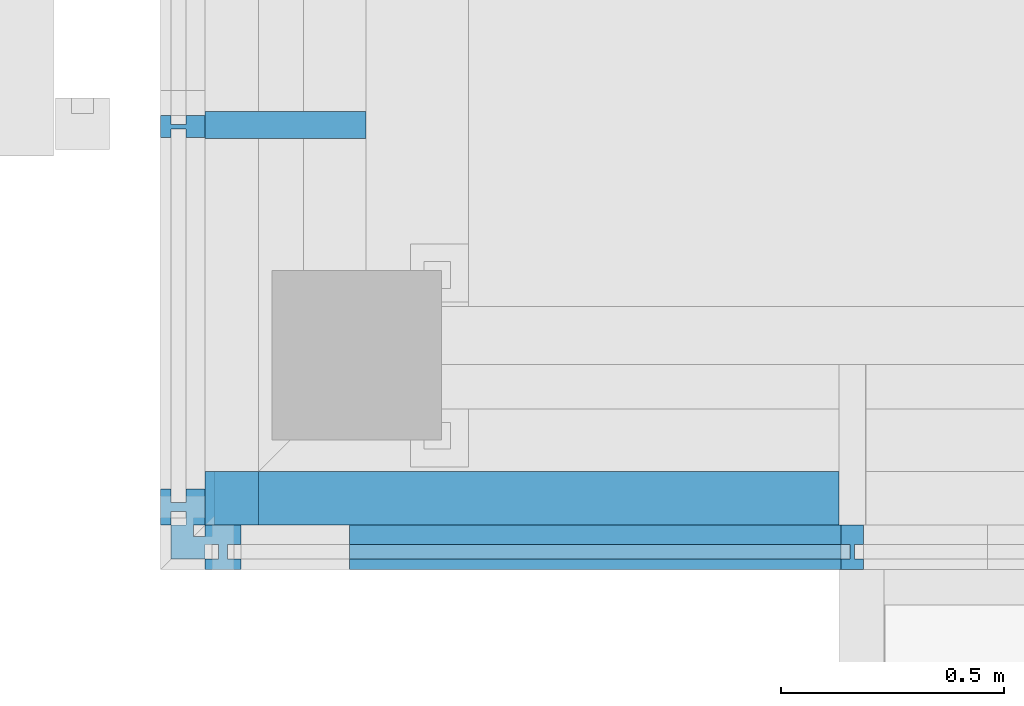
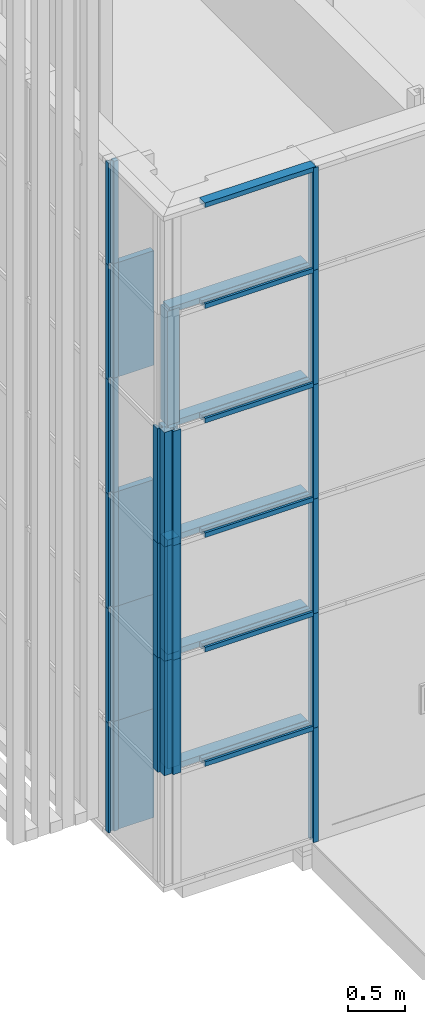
# One storey, part 7 of 260: 33 members, 2 elements without a shape of their own.
"""IFC2X3 building model written with IfcOpenShell, lengths in millimetres."""

from ifc_helpers import new_model, entity, si_unit, converted_unit, derived_unit, money_unit, direction, frame, origin_with_axes, place, context, subcontext, project, spatial, faceted_brep, source, transform, mapped, material, type_object, element, aggregate, save


model = new_model("IFC2X3")

# Units and contexts
model_context = context("Model", 3, precision=0.01, world=origin_with_axes(), true_north=direction((0.0, 1.0)))
body_context = subcontext(model_context, "Body", "Model", "MODEL_VIEW")
ifc_project = project(units=[si_unit("LENGTHUNIT", "METRE", prefix="MILLI"), si_unit("AREAUNIT", "SQUARE_METRE"), si_unit("VOLUMEUNIT", "CUBIC_METRE"), converted_unit("PLANEANGLEUNIT", "DEGREE", entity("IfcPlaneAngleMeasure", 0.0174532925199), si_unit("PLANEANGLEUNIT", "RADIAN"), dimensions=[0, 0, 0, 0, 0, 0, 0]), money_unit("EUR"), converted_unit("TIMEUNIT", "Year", entity("IfcTimeMeasure", 31556926.0), si_unit("TIMEUNIT", "SECOND"), dimensions=[0, 0, 1, 0, 0, 0, 0]), si_unit("MASSUNIT", "GRAM", prefix="KILO"), si_unit("THERMODYNAMICTEMPERATUREUNIT", "DEGREE_CELSIUS"), si_unit("LUMINOUSINTENSITYUNIT", "LUMEN"), si_unit("ENERGYUNIT", "JOULE", prefix="MEGA"), derived_unit("THERMALCONDUCTANCEUNIT", [(si_unit("POWERUNIT", "WATT"), 1), (si_unit("LENGTHUNIT", "METRE"), -1), (si_unit("THERMODYNAMICTEMPERATUREUNIT", "KELVIN"), -1)]), derived_unit("SPECIFICHEATCAPACITYUNIT", [(si_unit("ENERGYUNIT", "JOULE"), 1), (si_unit("MASSUNIT", "GRAM", prefix="KILO"), -1), (si_unit("THERMODYNAMICTEMPERATUREUNIT", "KELVIN"), -1)]), derived_unit("MASSDENSITYUNIT", [(si_unit("MASSUNIT", "GRAM", prefix="KILO"), 1), (si_unit("VOLUMEUNIT", "CUBIC_METRE"), -1)])], contexts=[model_context])

# Site, building, storey
site_placement = place(None, origin_with_axes())
site = spatial("IfcSite", under=ifc_project, at=site_placement, Name="Kolde pst 67a", CompositionType="ELEMENT")
building_placement = place(site_placement, origin_with_axes())
building = spatial("IfcBuilding", under=site, at=building_placement, Name="Riigigümnaasium", CompositionType="ELEMENT")
storey_placement = place(building_placement, origin_with_axes())
storey = spatial("IfcBuildingStorey", under=building, at=storey_placement, Name="1. korrus", CompositionType="ELEMENT", Elevation=0.0)

# Curtain wall, members
curtain_wall_type = type_object("IfcCurtainWallType", Name="Curtain Wall Type", PredefinedType="NOTDEFINED")
curtain_wall_1_placement = place(storey_placement, frame((47829.9854655, 8727.77020058, -0.000749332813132), z_axis=(0.0, 0.0, 1.0), x_axis=(1.0, 0.0, 0.0)))
curtain_wall_1 = element("IfcCurtainWall", 1, at=curtain_wall_1_placement, inside=storey, type_object=curtain_wall_type, Name="KLAASFASSAAD")
ifc_material_1 = material(Name="_METALL - alumiinium")
member_type_1 = type_object("IfcMemberType", Name="Transom Frame 50 x 100", PredefinedType="MEMBER")
shared_shape_1 = source(origin_with_axes(), body_context, "Body", "Brep", [
    faceted_brep([(5.0, -16.5, 1127.09166949), (5.0, 16.5, 1127.09166949), (25.0, 16.5, 1127.09166949), (25.0, 40.0, 1127.09166949), (-25.0, 40.0, 1127.09166949), (-25.0, 16.5, 1127.09166949), (-5.0, 16.5, 1127.09166949), (-5.0, -16.5, 1127.09166949), (-25.0, -16.5, 1127.09166949), (-25.0, -60.0, 1127.09166949), (25.0, -60.0, 1127.09166949), (25.0, -16.5, 1127.09166949), (5.0, -16.5, 25.0), (5.0, 16.5, 25.0), (25.0, 16.5, 25.0), (25.0, 40.0, 25.0), (-25.0, 40.0, 25.0), (-25.0, 16.5, 25.0), (-5.0, 16.5, 25.0), (-5.0, -16.5, 25.0), (-25.0, -16.5, 25.0), (-25.0, -60.0, 25.0), (25.0, -60.0, 25.0), (25.0, -16.5, 25.0)], [[[0, 1, 2, 3, 4, 5, 6, 7, 8, 9, 10, 11]], [[0, 12, 13, 1]], [[1, 13, 14, 2]], [[14, 15, 3, 2]], [[4, 3, 15, 16]], [[17, 5, 4, 16]], [[5, 17, 18, 6]], [[7, 6, 18, 19]], [[8, 7, 19, 20]], [[8, 20, 21, 9]], [[10, 9, 21, 22]], [[11, 10, 22, 23]], [[11, 23, 12, 0]], [[13, 12, 23, 22, 21, 20, 19, 18, 17, 16, 15, 14]]]),
])
member_1_placement = place(curtain_wall_1_placement, frame((1510.65725232, -1457.77050928, 3690.00074933), z_axis=(-1.0, 2.70881141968e-07, 0.0), x_axis=(0.0, 0.0, 1.0)))
member_1 = element("IfcMember", 2, at=member_1_placement, type_object=member_type_1, material=ifc_material_1, Name="RF RAAM HOR-705", ObjectType="MEMBER", context=body_context, shape_type="MappedRepresentation", body=[
    mapped(shared_shape_1, transform((0.0, 0.0, 0.0), x_axis=(-1.0, 0.0, 0.0), y_axis=(0.0, -1.0, 0.0), z_axis=(0.0, 0.0, 1.0))),
])
member_2_placement = place(curtain_wall_1_placement, frame((1510.65725232, -1457.77050928, 2460.00074933), z_axis=(-1.0, 2.70881141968e-07, 0.0), x_axis=(0.0, 0.0, 1.0)))
member_2 = element("IfcMember", 3, at=member_2_placement, type_object=member_type_1, material=ifc_material_1, Name="RF RAAM HOR-669", ObjectType="MEMBER", context=body_context, shape_type="MappedRepresentation", body=[
    mapped(shared_shape_1, transform((0.0, 0.0, 0.0), x_axis=(-1.0, 0.0, 0.0), y_axis=(0.0, -1.0, 0.0), z_axis=(0.0, 0.0, 1.0))),
])
member_3_placement = place(curtain_wall_1_placement, frame((1510.65725232, -1457.77050928, 4920.00074933), z_axis=(-1.0, 2.70881141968e-07, 0.0), x_axis=(0.0, 0.0, 1.0)))
member_3 = element("IfcMember", 4, at=member_3_placement, type_object=member_type_1, material=ifc_material_1, Name="RF RAAM HOR-685", ObjectType="MEMBER", context=body_context, shape_type="MappedRepresentation", body=[
    mapped(shared_shape_1, transform((0.0, 0.0, 0.0), x_axis=(-1.0, 0.0, 0.0), y_axis=(0.0, -1.0, 0.0), z_axis=(0.0, 0.0, 1.0))),
])
member_4_placement = place(curtain_wall_1_placement, frame((1510.65725232, -1457.77050928, 6150.00074933), z_axis=(-1.0, 2.70881141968e-07, 0.0), x_axis=(0.0, 0.0, 1.0)))
member_4 = element("IfcMember", 5, at=member_4_placement, type_object=member_type_1, material=ifc_material_1, Name="RF RAAM HOR-691", ObjectType="MEMBER", context=body_context, shape_type="MappedRepresentation", body=[
    mapped(shared_shape_1, transform((0.0, 0.0, 0.0), x_axis=(-1.0, 0.0, 0.0), y_axis=(0.0, -1.0, 0.0), z_axis=(0.0, 0.0, 1.0))),
])
member_5_placement = place(curtain_wall_1_placement, frame((1510.65724213, -1457.77050928, 1230.00074933), z_axis=(-1.0, 2.70881141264e-07, 0.0), x_axis=(0.0, 0.0, 1.0)))
member_5 = element("IfcMember", 6, at=member_5_placement, type_object=member_type_1, material=ifc_material_1, Name="RF RAAM HOR-956", ObjectType="MEMBER", context=body_context, shape_type="MappedRepresentation", body=[
    mapped(shared_shape_1, transform((0.0, 0.0, 0.0), x_axis=(-1.0, 0.0, 0.0), y_axis=(0.0, -1.0, 0.0), z_axis=(0.0, 0.0, 1.0))),
])
member_type_2 = type_object("IfcMemberType", Name="Corner Frame 80 x 100", PredefinedType="MEMBER")
shared_shape_2 = source(origin_with_axes(), body_context, "Body", "Brep", [
    faceted_brep([(66.1144961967, -89.4489988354, 0.0), (89.4490168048, -66.1144718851, 0.0), (89.4490168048, -66.1144718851, 1230.0), (66.1144961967, -89.4489988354, 1230.0), (51.9723586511, -75.3068651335, 0.0), (75.3068792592, -51.9723381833, 0.0), (75.3068792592, -51.9723381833, 1230.0), (51.9723586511, -75.3068651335, 1230.0)], [[[0, 1, 2, 3]], [[0, 4, 5, 1]], [[1, 5, 6, 2]], [[3, 2, 6, 7]], [[4, 0, 3, 7]], [[5, 4, 7, 6]]]),
    faceted_brep([(56.5685617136, -141.42134855, 0.0), (87.3277025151, -110.662199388, 0.0), (87.3277025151, -110.662199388, 1230.0), (56.5685617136, -141.42134855, 1230.0), (1.15311900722e-05, -84.8528137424, 0.0), (30.7591523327, -54.0936645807, 0.0), (30.7591523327, -54.0936645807, 1230.0), (1.15311900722e-05, -84.8528137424, 1230.0)], [[[0, 1, 2, 3]], [[0, 4, 5, 1]], [[1, 5, 6, 2]], [[3, 2, 6, 7]], [[4, 0, 3, 7]], [[5, 4, 7, 6]]]),
    faceted_brep([(70.7106800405, -14.1421260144, 0.0), (54.0936729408, -30.7591376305, 0.0), (54.0936729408, -30.7591376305, 1230.0), (70.7106800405, -14.1421260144, 1230.0), (127.279230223, -70.7106608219, 0.0), (110.662223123, -87.3276724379, 0.0), (110.662223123, -87.3276724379, 1230.0), (127.279230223, -70.7106608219, 1230.0)], [[[0, 1, 2, 3]], [[0, 4, 5, 1]], [[1, 5, 6, 2]], [[3, 2, 6, 7]], [[4, 0, 3, 7]], [[5, 4, 7, 6]]]),
    faceted_brep([(-54.0936729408, -30.7591376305, 0.0), (-49.8510328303, -35.0017788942, 0.0), (-49.8510328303, -35.0017788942, 1230.0), (-54.0936729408, -30.7591376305, 1230.0), (0.0, 23.3345206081, 0.0), (54.0936729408, -30.7591376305, 0.0), (49.8510328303, -35.0017788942, 0.0), (0.0, 14.849240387, 0.0), (0.0, 14.849240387, 1230.0), (49.8510328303, -35.0017788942, 1230.0), (54.0936729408, -30.7591376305, 1230.0), (0.0, 23.3345206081, 1230.0)], [[[0, 1, 2, 3]], [[0, 4, 5, 6, 7, 1]], [[1, 7, 8, 2]], [[3, 2, 8, 9, 10, 11]], [[4, 0, 3, 11]], [[5, 4, 11, 10]], [[6, 5, 10, 9]], [[7, 6, 9, 8]]]),
    faceted_brep([(-18.738337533, -57.6292001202, 0.0), (-45.6083915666, -30.7591387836, 0.0), (-45.6083915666, -30.7591387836, 1230.0), (-18.738337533, -57.6292001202, 1230.0), (0.0, -38.8908676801, 0.0), (18.738337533, -57.6292001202, 0.0), (45.6083915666, -30.7591387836, 0.0), (49.8510328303, -35.0017788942, 0.0), (18.7383386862, -66.1144814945, 0.0), (0.0, -47.3761479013, 0.0), (-18.7383386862, -66.1144814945, 0.0), (-49.8510328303, -35.0017788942, 0.0), (-49.8510328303, -35.0017788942, 1230.0), (-18.7383386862, -66.1144814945, 1230.0), (0.0, -47.3761479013, 1230.0), (18.7383386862, -66.1144814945, 1230.0), (49.8510328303, -35.0017788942, 1230.0), (45.6083915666, -30.7591387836, 1230.0), (18.738337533, -57.6292001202, 1230.0), (0.0, -38.8908676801, 1230.0)], [[[0, 1, 2, 3]], [[0, 4, 5, 6, 7, 8, 9, 10, 11, 1]], [[1, 11, 12, 2]], [[3, 2, 12, 13, 14, 15, 16, 17, 18, 19]], [[4, 0, 3, 19]], [[5, 4, 19, 18]], [[6, 5, 18, 17]], [[7, 6, 17, 16]], [[8, 7, 16, 15]], [[9, 8, 15, 14]], [[10, 9, 14, 13]], [[11, 10, 13, 12]]]),
    faceted_brep([(-45.6083915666, -30.7591387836, 0.0), (-18.738337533, -57.6292001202, 0.0), (-18.738337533, -57.6292001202, 1230.0), (-45.6083915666, -30.7591387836, 1230.0), (0.0, 14.849240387, 0.0), (45.6083915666, -30.7591387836, 0.0), (18.738337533, -57.6292001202, 0.0), (0.0, -38.8908676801, 0.0), (0.0, -38.8908676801, 1230.0), (18.738337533, -57.6292001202, 1230.0), (45.6083915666, -30.7591387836, 1230.0), (0.0, 14.849240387, 1230.0)], [[[0, 1, 2, 3]], [[0, 4, 5, 6, 7, 1]], [[1, 7, 8, 2]], [[3, 2, 8, 9, 10, 11]], [[4, 0, 3, 11]], [[5, 4, 11, 10]], [[6, 5, 10, 9]], [[7, 6, 9, 8]]]),
    faceted_brep([(-51.9723586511, -75.3068651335, 0.0), (-75.3068792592, -51.9723381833, 0.0), (-75.3068792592, -51.9723381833, 1230.0), (-51.9723586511, -75.3068651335, 1230.0), (-66.1144961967, -89.4489988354, 0.0), (-89.4490168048, -66.1144718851, 0.0), (-89.4490168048, -66.1144718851, 1230.0), (-66.1144961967, -89.4489988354, 1230.0)], [[[0, 1, 2, 3]], [[0, 4, 5, 1]], [[1, 5, 6, 2]], [[3, 2, 6, 7]], [[4, 0, 3, 7]], [[5, 4, 7, 6]]]),
    faceted_brep([(-1.15311900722e-05, -84.8528137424, 0.0), (-30.7591523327, -54.0936645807, 0.0), (-30.7591523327, -54.0936645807, 1230.0), (-1.15311900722e-05, -84.8528137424, 1230.0), (-56.5685617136, -141.42134855, 0.0), (-87.3277025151, -110.662199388, 0.0), (-87.3277025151, -110.662199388, 1230.0), (-56.5685617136, -141.42134855, 1230.0)], [[[0, 1, 2, 3]], [[0, 4, 5, 1]], [[1, 5, 6, 2]], [[3, 2, 6, 7]], [[4, 0, 3, 7]], [[5, 4, 7, 6]]]),
    faceted_brep([(-127.279230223, -70.7106608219, 0.0), (-110.662223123, -87.3276724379, 0.0), (-110.662223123, -87.3276724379, 1230.0), (-127.279230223, -70.7106608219, 1230.0), (-70.7106800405, -14.1421260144, 0.0), (-54.0936729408, -30.7591376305, 0.0), (-54.0936729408, -30.7591376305, 1230.0), (-70.7106800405, -14.1421260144, 1230.0)], [[[0, 1, 2, 3]], [[0, 4, 5, 1]], [[1, 5, 6, 2]], [[3, 2, 6, 7]], [[4, 0, 3, 7]], [[5, 4, 7, 6]]]),
])
member_6_placement = place(curtain_wall_1_placement, frame((1.32891386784e-06, -1457.77010008, 1230.00074933), z_axis=(0.0, 0.0, 1.0), x_axis=(0.707106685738, -0.707106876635, 0.0)))
member_6 = element("IfcMember", 7, at=member_6_placement, type_object=member_type_2, material=ifc_material_1, Name="RF RAAM NURK-948", ObjectType="MEMBER", context=body_context, shape_type="MappedRepresentation", body=[
    mapped(shared_shape_2, transform((0.0, 0.0, 0.0), x_axis=(-1.0, 0.0, 0.0), y_axis=(0.0, -1.0, 0.0), z_axis=(0.0, 0.0, 1.0))),
])
member_7_placement = place(curtain_wall_1_placement, frame((1.32891386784e-06, -1457.77010008, 2460.00074933), z_axis=(0.0, 0.0, 1.0), x_axis=(0.707106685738, -0.707106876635, 0.0)))
member_7 = element("IfcMember", 8, at=member_7_placement, type_object=member_type_2, material=ifc_material_1, Name="RF RAAM NURK-949", ObjectType="MEMBER", context=body_context, shape_type="MappedRepresentation", body=[
    mapped(shared_shape_2, transform((0.0, 0.0, 0.0), x_axis=(-1.0, 0.0, 0.0), y_axis=(0.0, -1.0, 0.0), z_axis=(0.0, 0.0, 1.0))),
])
member_8_placement = place(curtain_wall_1_placement, frame((1.32891386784e-06, -1457.77010008, 3690.00074933), z_axis=(0.0, 0.0, 1.0), x_axis=(0.707106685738, -0.707106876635, 0.0)))
member_8 = element("IfcMember", 9, at=member_8_placement, type_object=member_type_2, material=ifc_material_1, Name="RF RAAM NURK-950", ObjectType="MEMBER", context=body_context, shape_type="MappedRepresentation", body=[
    mapped(shared_shape_2, transform((0.0, 0.0, 0.0), x_axis=(-1.0, 0.0, 0.0), y_axis=(0.0, -1.0, 0.0), z_axis=(0.0, 0.0, 1.0))),
])
member_type_3 = type_object("IfcMemberType", Name="Mullion Frame 50 x 100", PredefinedType="MEMBER")
shared_shape_3 = source(origin_with_axes(), body_context, "Body", "Brep", [
    faceted_brep([(5.0, -16.5, 1230.00046362), (5.0, 16.5, 1230.00046362), (25.0, 16.5, 1230.00046362), (25.0, 40.0, 1230.00046362), (-25.0, 40.0, 1230.00046362), (-25.0, 16.5, 1230.00046362), (-5.0, 16.5, 1230.00046362), (-5.0, -16.5, 1230.00046362), (-25.0, -16.5, 1230.00046362), (-25.0, -60.0, 1230.00046362), (25.0, -60.0, 1230.00046362), (25.0, -16.5, 1230.00046362), (5.0, -16.5, 50.0), (5.0, 16.5, 50.0), (25.0, 16.5, 50.0), (25.0, 40.0, 50.0), (-25.0, 40.0, 50.0), (-25.0, 16.5, 50.0), (-5.0, 16.5, 50.0), (-5.0, -16.5, 50.0), (-25.0, -16.5, 50.0), (-25.0, -60.0, 50.0), (25.0, -60.0, 50.0), (25.0, -16.5, 50.0)], [[[0, 1, 2, 3, 4, 5, 6, 7, 8, 9, 10, 11]], [[0, 12, 13, 1]], [[1, 13, 14, 2]], [[14, 15, 3, 2]], [[4, 3, 15, 16]], [[17, 5, 4, 16]], [[5, 17, 18, 6]], [[7, 6, 18, 19]], [[8, 7, 19, 20]], [[8, 20, 21, 9]], [[10, 9, 21, 22]], [[11, 10, 22, 23]], [[11, 23, 12, 0]], [[13, 12, 23, 22, 21, 20, 19, 18, 17, 16, 15, 14]]]),
])
member_9_placement = place(curtain_wall_1_placement, frame((4.6019721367e-07, -504.830154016, 0.0), z_axis=(0.0, 4.44517864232e-10, 1.0), x_axis=(9.11614519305e-10, -1.0, 4.44517864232e-10)))
member_9 = element("IfcMember", 10, at=member_9_placement, type_object=member_type_3, material=ifc_material_1, Name="RF RAAM VERT-994", ObjectType="MEMBER", context=body_context, shape_type="MappedRepresentation", body=[
    mapped(shared_shape_3, transform((0.0, 0.0, 0.0), x_axis=(-1.0, 0.0, 4.44517864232e-10), y_axis=(0.0, -1.0, 0.0), z_axis=(4.44517864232e-10, 0.0, 1.0))),
])
shared_shape_4 = source(origin_with_axes(), body_context, "Body", "Brep", [
    faceted_brep([(5.0, -16.5, 1230.0), (5.0, 16.5, 1230.0), (25.0, 16.5, 1230.0), (25.0, 40.0, 1230.0), (-25.0, 40.0, 1230.0), (-25.0, 16.5, 1230.0), (-5.0, 16.5, 1230.0), (-5.0, -16.5, 1230.0), (-25.0, -16.5, 1230.0), (-25.0, -60.0, 1230.0), (25.0, -60.0, 1230.0), (25.0, -16.5, 1230.0), (5.0, -16.5, 0.0), (5.0, 16.5, 0.0), (25.0, 16.5, 0.0), (25.0, 40.0, 0.0), (-25.0, 40.0, 0.0), (-25.0, 16.5, 0.0), (-5.0, 16.5, 0.0), (-5.0, -16.5, 0.0), (-25.0, -16.5, 0.0), (-25.0, -60.0, 0.0), (25.0, -60.0, 0.0), (25.0, -16.5, 0.0)], [[[0, 1, 2, 3, 4, 5, 6, 7, 8, 9, 10, 11]], [[0, 12, 13, 1]], [[1, 13, 14, 2]], [[14, 15, 3, 2]], [[3, 15, 16, 4]], [[17, 5, 4, 16]], [[5, 17, 18, 6]], [[7, 6, 18, 19]], [[8, 7, 19, 20]], [[8, 20, 21, 9]], [[9, 21, 22, 10]], [[11, 10, 22, 23]], [[11, 23, 12, 0]], [[13, 12, 23, 22, 21, 20, 19, 18, 17, 16, 15, 14]]]),
])
member_10_placement = place(curtain_wall_1_placement, frame((4.6019721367e-07, -504.830155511, 4920.00074933), z_axis=(0.0, 0.0, 1.0), x_axis=(9.11614519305e-10, -1.0, 0.0)))
member_10 = element("IfcMember", 11, at=member_10_placement, type_object=member_type_3, material=ifc_material_1, Name="RF RAAM VERT-867", ObjectType="MEMBER", context=body_context, shape_type="MappedRepresentation", body=[
    mapped(shared_shape_4, transform((0.0, 0.0, 0.0), x_axis=(-1.0, 0.0, 0.0), y_axis=(0.0, -1.0, 0.0), z_axis=(0.0, 0.0, 1.0))),
])
member_11_placement = place(curtain_wall_1_placement, frame((1510.65725232, -1457.77050928, 4920.00074933), z_axis=(0.0, 0.0, 1.0), x_axis=(1.0, -2.70881141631e-07, 0.0)))
member_11 = element("IfcMember", 12, at=member_11_placement, type_object=member_type_3, material=ifc_material_1, Name="RF RAAM VERT-881", ObjectType="MEMBER", context=body_context, shape_type="MappedRepresentation", body=[
    mapped(shared_shape_4, transform((0.0, 0.0, 0.0), x_axis=(-1.0, -2.70881141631e-07, 0.0), y_axis=(2.70881141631e-07, -1.0, 0.0), z_axis=(0.0, 0.0, 1.0))),
])
member_12_placement = place(curtain_wall_1_placement, frame((4.6019721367e-07, -504.83015347, 1230.00074933), z_axis=(0.0, 0.0, 1.0), x_axis=(9.11614519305e-10, -1.0, 0.0)))
member_12 = element("IfcMember", 13, at=member_12_placement, type_object=member_type_3, material=ifc_material_1, Name="RF RAAM VERT-990", ObjectType="MEMBER", context=body_context, shape_type="MappedRepresentation", body=[
    mapped(shared_shape_4, transform((0.0, 0.0, 0.0), x_axis=(-1.0, 0.0, 0.0), y_axis=(0.0, -1.0, 0.0), z_axis=(0.0, 0.0, 1.0))),
])
member_13_placement = place(curtain_wall_1_placement, frame((4.6019721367e-07, -504.83015347, 2460.00074933), z_axis=(0.0, 0.0, 1.0), x_axis=(9.11614519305e-10, -1.0, 0.0)))
member_13 = element("IfcMember", 14, at=member_13_placement, type_object=member_type_3, material=ifc_material_1, Name="RF RAAM VERT-991", ObjectType="MEMBER", context=body_context, shape_type="MappedRepresentation", body=[
    mapped(shared_shape_4, transform((0.0, 0.0, 0.0), x_axis=(-1.0, 0.0, 0.0), y_axis=(0.0, -1.0, 0.0), z_axis=(0.0, 0.0, 1.0))),
])
member_14_placement = place(curtain_wall_1_placement, frame((4.6019721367e-07, -504.830153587, 3690.00074933), z_axis=(0.0, -1.56436092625e-09, 1.0), x_axis=(9.11614519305e-10, -1.0, -1.56436092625e-09)))
member_14 = element("IfcMember", 15, at=member_14_placement, type_object=member_type_3, material=ifc_material_1, Name="RF RAAM VERT-992", ObjectType="MEMBER", context=body_context, shape_type="MappedRepresentation", body=[
    mapped(shared_shape_4, transform((0.0, 0.0, 0.0), x_axis=(-1.0, 0.0, -1.56436092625e-09), y_axis=(0.0, -1.0, 0.0), z_axis=(-1.56436092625e-09, 0.0, 1.0))),
])
member_15_placement = place(curtain_wall_1_placement, frame((1510.65725232, -1457.77050928, 3690.00074933), z_axis=(0.0, 0.0, 1.0), x_axis=(1.0, -2.70881141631e-07, 0.0)))
member_15 = element("IfcMember", 16, at=member_15_placement, type_object=member_type_3, material=ifc_material_1, Name="RF RAAM VERT-005", ObjectType="MEMBER", context=body_context, shape_type="MappedRepresentation", body=[
    mapped(shared_shape_4, transform((0.0, 0.0, 0.0), x_axis=(-1.0, -2.70881141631e-07, 0.0), y_axis=(2.70881141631e-07, -1.0, 0.0), z_axis=(0.0, 0.0, 1.0))),
])
member_16_placement = place(curtain_wall_1_placement, frame((1510.65724213, -1457.77050928, 0.000719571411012), z_axis=(0.0, 0.0, 1.0), x_axis=(1.0, -2.70881141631e-07, 0.0)))
member_16 = element("IfcMember", 17, at=member_16_placement, type_object=member_type_3, material=ifc_material_1, Name="RF RAAM VERT-010", ObjectType="MEMBER", context=body_context, shape_type="MappedRepresentation", body=[
    mapped(shared_shape_4, transform((0.0, 0.0, 0.0), x_axis=(-1.0, -2.70881141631e-07, 0.0), y_axis=(2.70881141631e-07, -1.0, 0.0), z_axis=(0.0, 0.0, 1.0))),
])
member_17_placement = place(curtain_wall_1_placement, frame((1510.65725232, -1457.77050928, 2460.00074933), z_axis=(0.0, 0.0, 1.0), x_axis=(1.0, -2.70881141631e-07, 0.0)))
member_17 = element("IfcMember", 18, at=member_17_placement, type_object=member_type_3, material=ifc_material_1, Name="RF RAAM VERT-011", ObjectType="MEMBER", context=body_context, shape_type="MappedRepresentation", body=[
    mapped(shared_shape_4, transform((0.0, 0.0, 0.0), x_axis=(-1.0, -2.70881141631e-07, 0.0), y_axis=(2.70881141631e-07, -1.0, 0.0), z_axis=(0.0, 0.0, 1.0))),
])
member_18_placement = place(curtain_wall_1_placement, frame((1510.65724213, -1457.77050928, 1230.00074933), z_axis=(8.27970609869e-09, 0.0, 1.0), x_axis=(1.0, -2.70881141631e-07, -8.27970609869e-09)))
member_18 = element("IfcMember", 19, at=member_18_placement, type_object=member_type_3, material=ifc_material_1, Name="RF RAAM VERT-012", ObjectType="MEMBER", context=body_context, shape_type="MappedRepresentation", body=[
    mapped(shared_shape_4, transform((0.0, 0.0, 0.0), x_axis=(-1.0, -2.70881141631e-07, -8.27970609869e-09), y_axis=(2.70881141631e-07, -1.0, 0.0), z_axis=(-8.27970609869e-09, 0.0, 1.0))),
])
shared_shape_5 = source(origin_with_axes(), body_context, "Body", "Brep", [
    faceted_brep([(5.0, -16.5, 1099.99900713), (5.0, 16.5, 1099.99900713), (25.0, 16.5, 1099.99900713), (25.0, 40.0, 1099.99900713), (-25.0, 40.0, 1099.99900713), (-25.0, 16.5, 1099.99900713), (-5.0, 16.5, 1099.99900713), (-5.0, -16.5, 1099.99900713), (-25.0, -16.5, 1099.99900713), (-25.0, -60.0, 1099.99900713), (25.0, -60.0, 1099.99900713), (25.0, -16.5, 1099.99900713), (5.0, -16.5, -4.55870452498e-07), (5.0, 16.5, -4.55870452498e-07), (25.0, 16.5, -4.55870452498e-07), (25.0, 40.0, -4.55870452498e-07), (-25.0, 40.0, -4.55870452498e-07), (-25.0, 16.5, -4.55870452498e-07), (-5.0, 16.5, -4.55870452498e-07), (-5.0, -16.5, -4.55870452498e-07), (-25.0, -16.5, -4.55870452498e-07), (-25.0, -60.0, -4.55870452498e-07), (25.0, -60.0, -4.55870452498e-07), (25.0, -16.5, -4.55870452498e-07)], [[[0, 1, 2, 3, 4, 5, 6, 7, 8, 9, 10, 11]], [[0, 12, 13, 1]], [[1, 13, 14, 2]], [[14, 15, 3, 2]], [[3, 15, 16, 4]], [[17, 5, 4, 16]], [[5, 17, 18, 6]], [[7, 6, 18, 19]], [[8, 7, 19, 20]], [[8, 20, 21, 9]], [[9, 21, 22, 10]], [[11, 10, 22, 23]], [[11, 23, 12, 0]], [[13, 12, 23, 22, 21, 20, 19, 18, 17, 16, 15, 14]]]),
])
member_19_placement = place(curtain_wall_1_placement, frame((1510.65725232, -1457.77050928, 6150.00074933), z_axis=(2.53584468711e-09, 0.0, 1.0), x_axis=(1.0, -2.70881141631e-07, -2.53584468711e-09)))
member_19 = element("IfcMember", 20, at=member_19_placement, type_object=member_type_3, material=ifc_material_1, Name="RF RAAM VERT-028", ObjectType="MEMBER", context=body_context, shape_type="MappedRepresentation", body=[
    mapped(shared_shape_5, transform((0.0, 0.0, 0.0), x_axis=(-1.0, -2.70881141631e-07, -2.53584468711e-09), y_axis=(2.70881141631e-07, -1.0, 0.0), z_axis=(-2.53584468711e-09, 0.0, 1.0))),
])
member_20_placement = place(curtain_wall_1_placement, frame((4.6019721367e-07, -504.830155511, 6150.00074933), z_axis=(0.0, 3.27695139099e-09, 1.0), x_axis=(9.11614519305e-10, -1.0, 3.27695139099e-09)))
member_20 = element("IfcMember", 21, at=member_20_placement, type_object=member_type_3, material=ifc_material_1, Name="RF RAAM VERT-043", ObjectType="MEMBER", context=body_context, shape_type="MappedRepresentation", body=[
    mapped(shared_shape_5, transform((0.0, 0.0, 0.0), x_axis=(-1.0, 0.0, 3.27695139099e-09), y_axis=(0.0, -1.0, 0.0), z_axis=(3.27695139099e-09, 0.0, 1.0))),
])
member_type_4 = type_object("IfcMemberType", Name="Boundary Frame 50 x 100", PredefinedType="MEMBER")
shared_shape_6 = source(origin_with_axes(), body_context, "Body", "Brep", [
    faceted_brep([(-30.0, -16.5, 1127.09167065), (-50.0, -16.5, 1127.09167065), (-50.0, -60.0, 1127.09167065), (0.0, -60.0, 1127.09167065), (0.0, 40.0, 1127.09167065), (-50.0, 40.0, 1127.09167065), (-50.0, 16.5, 1127.09167065), (-30.0, 16.5, 1127.09167065), (-30.0, -16.5, 0.0), (-50.0, -16.5, 0.0), (-50.0, -60.0, 0.0), (0.0, -60.0, 0.0), (0.0, 40.0, 0.0), (-50.0, 40.0, 0.0), (-50.0, 16.5, 0.0), (-30.0, 16.5, 0.0)], [[[0, 1, 2, 3, 4, 5, 6, 7]], [[0, 8, 9, 1]], [[9, 10, 2, 1]], [[10, 11, 3, 2]], [[11, 12, 4, 3]], [[12, 13, 5, 4]], [[6, 5, 13, 14]], [[14, 15, 7, 6]], [[7, 15, 8, 0]], [[8, 15, 14, 13, 12, 11, 10, 9]]]),
])
member_21_placement = place(curtain_wall_1_placement, frame((383.565582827, -1457.77020398, 7260.00008951), z_axis=(1.0, -2.70881141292e-07, -7.69025695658e-08), x_axis=(-7.69025695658e-08, 0.0, -1.0)))
member_21 = element("IfcMember", 22, at=member_21_placement, type_object=member_type_4, material=ifc_material_1, Name="RF RAAM SERV-542", ObjectType="MEMBER", context=body_context, shape_type="MappedRepresentation", body=[
    mapped(shared_shape_6, transform((0.0, 0.0, 0.0), x_axis=(-1.0, 0.0, -7.69025695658e-08), y_axis=(0.0, -1.0, 0.0), z_axis=(-7.69025695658e-08, 0.0, 1.0))),
])
aggregate(curtain_wall_1, [member_1, member_2, member_6, member_7, member_3, member_4, member_8, member_5, member_10, member_11, member_12, member_13, member_14, member_9, member_15, member_16, member_17, member_18, member_19, member_20, member_21])

curtain_wall_2_placement = place(storey_placement, frame((47889.9854796, 7778.28071079, -0.000681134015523), z_axis=(0.0, 0.0, 1.0), x_axis=(1.0, 0.0, 0.0)))
curtain_wall_2 = element("IfcCurtainWall", 23, at=curtain_wall_2_placement, inside=storey, type_object=curtain_wall_type, Name="Klaasfassaadi puitkarkass")
ifc_material_2 = material(Name="_KANDETARIND - liimpuit vastavalt EK osale")
member_type_5 = type_object("IfcMemberType", Name="Mullion Frame 60 x 360", PredefinedType="MEMBER")
shared_shape_7 = source(origin_with_axes(), body_context, "Body", "Brep", [
    faceted_brep([(-30.0, 0.0, 60.0), (-30.0, -360.0, 60.0), (-30.0, -360.0, 1230.0002536), (-30.0, 0.0, 1230.0002536), (30.0, 0.0, 60.0), (30.0, -360.0, 60.0), (30.0, -360.0, 1230.0002536), (30.0, 0.0, 1230.0002536)], [[[0, 1, 2, 3]], [[1, 0, 4, 5]], [[1, 5, 6, 2]], [[2, 6, 7, 3]], [[4, 0, 3, 7]], [[5, 4, 7, 6]]]),
])
member_22_placement = place(curtain_wall_2_placement, frame((-4.81769291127e-07, 448.280635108, 0.0), z_axis=(0.0, 0.0, 1.0), x_axis=(1.07471542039e-09, -1.0, 0.0)))
member_22 = element("IfcMember", 24, at=member_22_placement, type_object=member_type_5, material=ifc_material_2, Name="RF RAAM VERT-457", ObjectType="MEMBER", context=body_context, shape_type="MappedRepresentation", body=[
    mapped(shared_shape_7, transform((0.0, 0.0, 0.0), x_axis=(-1.0, 0.0, 0.0), y_axis=(0.0, -1.0, 0.0), z_axis=(0.0, 0.0, 1.0))),
])
shared_shape_8 = source(origin_with_axes(), body_context, "Body", "Brep", [
    faceted_brep([(-30.0, -360.0, 0.0), (-30.0, -360.0, 1230.0), (-30.0, 0.0, 1230.0), (-30.0, 0.0, 0.0), (30.0, -360.0, 0.0), (30.0, -360.0, 1230.0), (30.0, 0.0, 1230.0), (30.0, 0.0, 0.0)], [[[0, 1, 2, 3]], [[4, 5, 1, 0]], [[1, 5, 6, 2]], [[3, 2, 6, 7]], [[0, 3, 7, 4]], [[7, 6, 5, 4]]]),
])
member_23_placement = place(curtain_wall_2_placement, frame((-4.81769291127e-07, 448.280635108, 1230.00068113), z_axis=(0.0, 0.0, 1.0), x_axis=(1.07471542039e-09, -1.0, 0.0)))
member_23 = element("IfcMember", 25, at=member_23_placement, type_object=member_type_5, material=ifc_material_2, Name="RF RAAM VERT-457", ObjectType="MEMBER", context=body_context, shape_type="MappedRepresentation", body=[
    mapped(shared_shape_8, transform((0.0, 0.0, 0.0), x_axis=(-1.0, 0.0, 0.0), y_axis=(0.0, -1.0, 0.0), z_axis=(0.0, 0.0, 1.0))),
])
member_24_placement = place(curtain_wall_2_placement, frame((-4.81769291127e-07, 448.280635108, 2460.00068113), z_axis=(0.0, 0.0, 1.0), x_axis=(1.07471542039e-09, -1.0, 0.0)))
member_24 = element("IfcMember", 26, at=member_24_placement, type_object=member_type_5, material=ifc_material_2, Name="RF RAAM VERT-457", ObjectType="MEMBER", context=body_context, shape_type="MappedRepresentation", body=[
    mapped(shared_shape_8, transform((0.0, 0.0, 0.0), x_axis=(-1.0, 0.0, 0.0), y_axis=(0.0, -1.0, 0.0), z_axis=(0.0, 0.0, 1.0))),
])
member_25_placement = place(curtain_wall_2_placement, frame((-4.81769291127e-07, 448.280635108, 4920.00068113), z_axis=(0.0, 0.0, 1.0), x_axis=(1.07471542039e-09, -1.0, 0.0)))
member_25 = element("IfcMember", 27, at=member_25_placement, type_object=member_type_5, material=ifc_material_2, Name="RF RAAM VERT-457", ObjectType="MEMBER", context=body_context, shape_type="MappedRepresentation", body=[
    mapped(shared_shape_8, transform((0.0, 0.0, 0.0), x_axis=(-1.0, 0.0, 0.0), y_axis=(0.0, -1.0, 0.0), z_axis=(0.0, 0.0, 1.0))),
])
member_type_6 = type_object("IfcMemberType", Name="Transom Frame 60 x 120", PredefinedType="MEMBER")
shared_shape_9 = source(origin_with_axes(), body_context, "Body", "Brep", [
    faceted_brep([(-30.0, 0.0, 30.0), (-30.0, -120.0, 30.0), (-30.0, -120.0, 1430.0000015), (-30.0, 0.0, 1430.0000015), (30.0, 0.0, 30.0), (30.0, -120.0, 30.0), (30.0, -120.0, 1430.0000015), (30.0, 0.0, 1430.0000015)], [[[0, 1, 2, 3]], [[1, 0, 4, 5]], [[1, 5, 6, 2]], [[2, 6, 7, 3]], [[4, 0, 3, 7]], [[5, 4, 7, 6]]]),
])
member_26_placement = place(curtain_wall_2_placement, frame((1450.65727801, -448.281015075, 6150.00068113), z_axis=(-1.0, 2.61927578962e-07, 0.0), x_axis=(0.0, 0.0, 1.0)))
member_26 = element("IfcMember", 28, at=member_26_placement, type_object=member_type_6, material=ifc_material_2, Name="RF RAAM HOR-249", ObjectType="MEMBER", context=body_context, shape_type="MappedRepresentation", body=[
    mapped(shared_shape_9, transform((0.0, 0.0, 0.0), x_axis=(-1.0, 0.0, 0.0), y_axis=(0.0, -1.0, 0.0), z_axis=(0.0, 0.0, 1.0))),
])
member_27_placement = place(curtain_wall_2_placement, frame((1450.65727801, -448.281015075, 4920.00068113), z_axis=(-1.0, 2.61927578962e-07, 0.0), x_axis=(0.0, 0.0, 1.0)))
member_27 = element("IfcMember", 29, at=member_27_placement, type_object=member_type_6, material=ifc_material_2, Name="RF RAAM HOR-249", ObjectType="MEMBER", context=body_context, shape_type="MappedRepresentation", body=[
    mapped(shared_shape_9, transform((0.0, 0.0, 0.0), x_axis=(-1.0, 0.0, 0.0), y_axis=(0.0, -1.0, 0.0), z_axis=(0.0, 0.0, 1.0))),
])
member_28_placement = place(curtain_wall_2_placement, frame((1450.65727801, -448.281015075, 3690.00068113), z_axis=(-1.0, 2.61927578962e-07, 0.0), x_axis=(0.0, 0.0, 1.0)))
member_28 = element("IfcMember", 30, at=member_28_placement, type_object=member_type_6, material=ifc_material_2, Name="RF RAAM HOR-249", ObjectType="MEMBER", context=body_context, shape_type="MappedRepresentation", body=[
    mapped(shared_shape_9, transform((0.0, 0.0, 0.0), x_axis=(-1.0, 0.0, 0.0), y_axis=(0.0, -1.0, 0.0), z_axis=(0.0, 0.0, 1.0))),
])
member_29_placement = place(curtain_wall_2_placement, frame((1450.65727801, -448.281015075, 1230.00068113), z_axis=(-1.0, 2.61927578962e-07, 0.0), x_axis=(0.0, 0.0, 1.0)))
member_29 = element("IfcMember", 31, at=member_29_placement, type_object=member_type_6, material=ifc_material_2, Name="RF RAAM HOR-249", ObjectType="MEMBER", context=body_context, shape_type="MappedRepresentation", body=[
    mapped(shared_shape_9, transform((0.0, 0.0, 0.0), x_axis=(-1.0, 0.0, 0.0), y_axis=(0.0, -1.0, 0.0), z_axis=(0.0, 0.0, 1.0))),
])
member_30_placement = place(curtain_wall_2_placement, frame((1450.65727801, -448.281015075, 2460.00068113), z_axis=(-1.0, 2.61927578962e-07, 0.0), x_axis=(0.0, 0.0, 1.0)))
member_30 = element("IfcMember", 32, at=member_30_placement, type_object=member_type_6, material=ifc_material_2, Name="RF RAAM HOR-249", ObjectType="MEMBER", context=body_context, shape_type="MappedRepresentation", body=[
    mapped(shared_shape_9, transform((0.0, 0.0, 0.0), x_axis=(-1.0, 0.0, 0.0), y_axis=(0.0, -1.0, 0.0), z_axis=(0.0, 0.0, 1.0))),
])
member_type_7 = type_object("IfcMemberType", Name="Corner Frame 120 x 120", PredefinedType="MEMBER")
shared_shape_10 = source(origin_with_axes(), body_context, "Body", "Brep", [
    faceted_brep([(-84.852813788, -84.8528136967, 0.0), (0.0, -169.705627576, 0.0), (0.0, -169.705627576, 1230.0), (-84.852813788, -84.8528136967, 1230.0), (0.0, 0.0, 0.0), (84.852813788, -84.8528136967, 0.0), (84.852813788, -84.8528136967, 1230.0), (0.0, 0.0, 1230.0)], [[[0, 1, 2, 3]], [[0, 4, 5, 1]], [[1, 5, 6, 2]], [[3, 2, 6, 7]], [[4, 0, 3, 7]], [[5, 4, 7, 6]]]),
])
member_31_placement = place(curtain_wall_2_placement, frame((4.81776396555e-07, -448.280635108, 1230.00068113), z_axis=(0.0, 0.0, 1.0), x_axis=(0.707106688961, -0.707106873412, 0.0)))
member_31 = element("IfcMember", 33, at=member_31_placement, type_object=member_type_7, material=ifc_material_2, Name="RF RAAM NURK-857", ObjectType="MEMBER", context=body_context, shape_type="MappedRepresentation", body=[
    mapped(shared_shape_10, transform((0.0, 0.0, 0.0), x_axis=(-1.0, 0.0, 0.0), y_axis=(0.0, -1.0, 0.0), z_axis=(0.0, 0.0, 1.0))),
])
member_32_placement = place(curtain_wall_2_placement, frame((4.81776396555e-07, -448.280635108, 2460.00068113), z_axis=(0.0, 0.0, 1.0), x_axis=(0.707106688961, -0.707106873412, 0.0)))
member_32 = element("IfcMember", 34, at=member_32_placement, type_object=member_type_7, material=ifc_material_2, Name="RF RAAM NURK-920", ObjectType="MEMBER", context=body_context, shape_type="MappedRepresentation", body=[
    mapped(shared_shape_10, transform((0.0, 0.0, 0.0), x_axis=(-1.0, 0.0, 0.0), y_axis=(0.0, -1.0, 0.0), z_axis=(0.0, 0.0, 1.0))),
])
member_33_placement = place(curtain_wall_2_placement, frame((4.81776396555e-07, -448.280635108, 4920.00068113), z_axis=(0.0, 0.0, 1.0), x_axis=(0.707106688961, -0.707106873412, 0.0)))
member_33 = element("IfcMember", 35, at=member_33_placement, type_object=member_type_7, material=ifc_material_2, Name="RF RAAM NURK-922", ObjectType="MEMBER", context=body_context, shape_type="MappedRepresentation", body=[
    mapped(shared_shape_10, transform((0.0, 0.0, 0.0), x_axis=(-1.0, 0.0, 0.0), y_axis=(0.0, -1.0, 0.0), z_axis=(0.0, 0.0, 1.0))),
])
aggregate(curtain_wall_2, [member_26, member_27, member_28, member_29, member_30, member_31, member_32, member_33, member_22, member_23, member_24, member_25])

save(model, "model.ifc")
